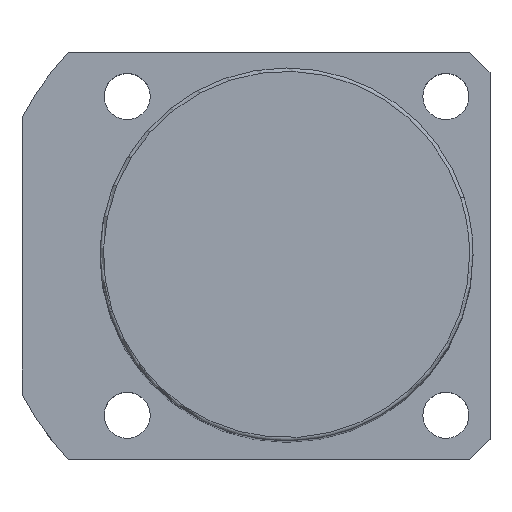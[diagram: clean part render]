
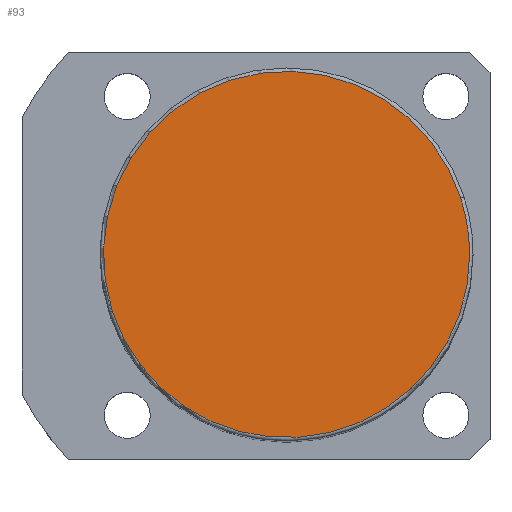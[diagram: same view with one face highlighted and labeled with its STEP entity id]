
A CAD part, top view. The second image highlights one B-rep face of the part: STEP entity #93.
In plain terms, the highlighted planar face has unit normal (0, 0, 1).
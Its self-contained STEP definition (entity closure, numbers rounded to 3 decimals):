
#16=CARTESIAN_POINT('',(25.679,8.343,131.0));
#17=VERTEX_POINT('',#16);
#45=CARTESIAN_POINT('',(-25.679,-8.343,131.0));
#46=VERTEX_POINT('',#45);
#54=CARTESIAN_POINT('',(0.0,0.0,131.0));
#55=DIRECTION('',(0.0,0.0,1.0));
#56=DIRECTION('',(1.0,0.0,0.0));
#57=AXIS2_PLACEMENT_3D('',#54,#55,#56);
#58=CIRCLE('',#57,27.0);
#59=EDGE_CURVE('no 890',#17,#46,#58,.T.);
#69=CARTESIAN_POINT('',(27.0,0.0,131.0));
#70=VERTEX_POINT('',#69);
#71=CARTESIAN_POINT('',(0.0,0.0,131.0));
#72=DIRECTION('',(0.0,0.0,1.0));
#73=DIRECTION('',(1.0,0.0,0.0));
#74=AXIS2_PLACEMENT_3D('',#71,#72,#73);
#75=CIRCLE('',#74,27.0);
#76=EDGE_CURVE('no 899',#70,#17,#75,.T.);
#77=ORIENTED_EDGE('',*,*,#76,.T.);
#78=ORIENTED_EDGE('',*,*,#59,.T.);
#79=CARTESIAN_POINT('',(0.0,0.0,131.0));
#80=DIRECTION('',(0.0,0.0,1.0));
#81=DIRECTION('',(1.0,0.0,0.0));
#82=AXIS2_PLACEMENT_3D('',#79,#80,#81);
#83=CIRCLE('',#82,27.0);
#84=EDGE_CURVE('no 905',#46,#70,#83,.T.);
#85=ORIENTED_EDGE('',*,*,#84,.T.);
#86=EDGE_LOOP('',(#77,#78,#85));
#87=FACE_OUTER_BOUND('',#86,.T.);
#88=CARTESIAN_POINT('',(0.0,0.0,131.0));
#89=DIRECTION('',(0.0,0.0,1.0));
#90=DIRECTION('',(1.0,0.0,0.0));
#91=AXIS2_PLACEMENT_3D('',#88,#89,#90);
#92=PLANE('',#91);
#93=ADVANCED_FACE('no 892',(#87),#92,.T.);
